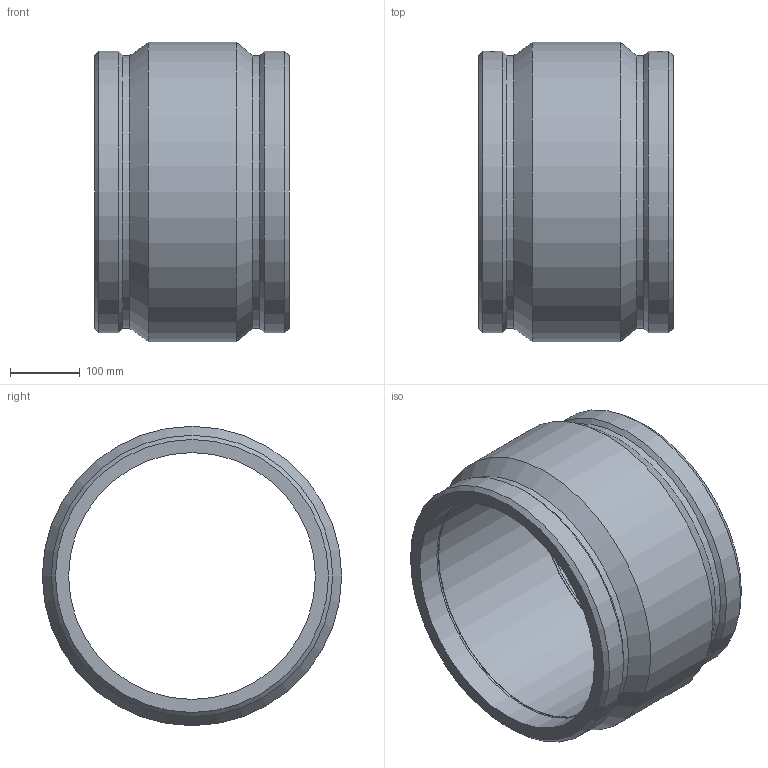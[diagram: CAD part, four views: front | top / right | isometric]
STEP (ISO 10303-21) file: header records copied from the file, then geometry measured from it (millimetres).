
FILE_DESCRIPTION(/* description */ ('PLASSON IPS COUPLER 14'''''),/* implementation_level */ '2;1');
FILE_NAME(/* name */ 'C:\Dropbox\KIMPROJECTS-Inventor 2019\99-16-3568-Processing Inch\ASTM ElectroFusion 2021\5901B\5901B003140.ipt.stp',/* time_stamp */ '2021-08-30T09:48:40+03:00',/* author */ ('KIM'),/* organization */ (''),/* preprocessor_version */ 'ST-DEVELOPER v17.2',/* originating_system */ 'Autodesk Inventor 2019',/* authorisation */ '');
FILE_SCHEMA (('AUTOMOTIVE_DESIGN { 1 0 10303 214 3 1 1 }'));
Length unit declared in the file: inch
Products named in the file (1): 5901B003140
Bounding box: 279.4 x 429.26 x 429.26 mm (x, y, z)
Volume: 10315658.2 mm3; surface area: 750003 mm2
Topology: 1 solids, 1 shells, 32 faces, 76 edges, 54 vertices
Faces by surface type: cylinder 12, plane 10, cone 10
Full cylindrical faces by diameter (mm): 4 x2, 10 x2, 354 x3, 391.399 x2, 403.504 x2, 429.26 x1
Entity records: 1077 total; most frequent: CARTESIAN_POINT 231, DIRECTION 188, ORIENTED_EDGE 152, AXIS2_PLACEMENT_3D 83, EDGE_CURVE 76, VERTEX_POINT 54, CIRCLE 50, EDGE_LOOP 42
